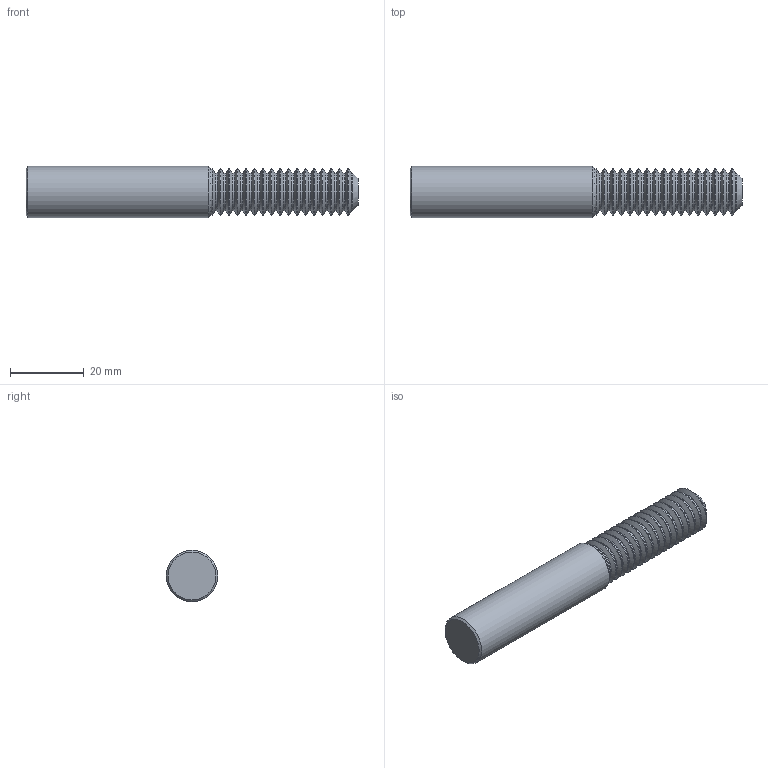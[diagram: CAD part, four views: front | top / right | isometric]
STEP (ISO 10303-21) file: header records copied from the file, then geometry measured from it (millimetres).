
FILE_DESCRIPTION(/* description */ (''),/* implementation_level */ '2;1');
FILE_NAME(/* name */ '00036546-TDM',/* time_stamp */ '2024-02-20T14:29:57+01:00',/* author */ (''),/* organization */ (''),/* preprocessor_version */ 'ST-DEVELOPER v16.5',/* originating_system */ 'HiCAD 2017 2201.0 Build 268',/* authorisation */ '');
FILE_SCHEMA (('AUTOMOTIVE_DESIGN { 1 0 10303 214 1 1 1 1 }'));
Length unit declared in the file: millimetre
Products named in the file (3): Root; ROTATIONSTEIL_0
Assembly tree (2 placements, depth 3):
  Root
    ROTATIONSTEIL_0
      ROTATIONSTEIL_0
Bounding box: 90 x 14 x 14 mm (x, y, z)
Volume: 11568.8 mm3; surface area: 4897.8 mm2
Topology: 2 solids, 2 shells, 108 faces, 214 edges, 110 vertices
Faces by surface type: cone 36, cylinder 35, torus 33, plane 4
Full cylindrical faces by diameter (mm): 10.18 x17, 12.7 x17, 14 x1
Entity records: 3264 total; most frequent: DIRECTION 436, CARTESIAN_POINT 324, AXIS2_PLACEMENT_3D 218, PRESENTATION_STYLE_ASSIGNMENT 214, COLOUR_RGB 214, DRAUGHTING_PRE_DEFINED_CURVE_FONT 212, CURVE_STYLE 212, OVER_RIDING_STYLED_ITEM 212
